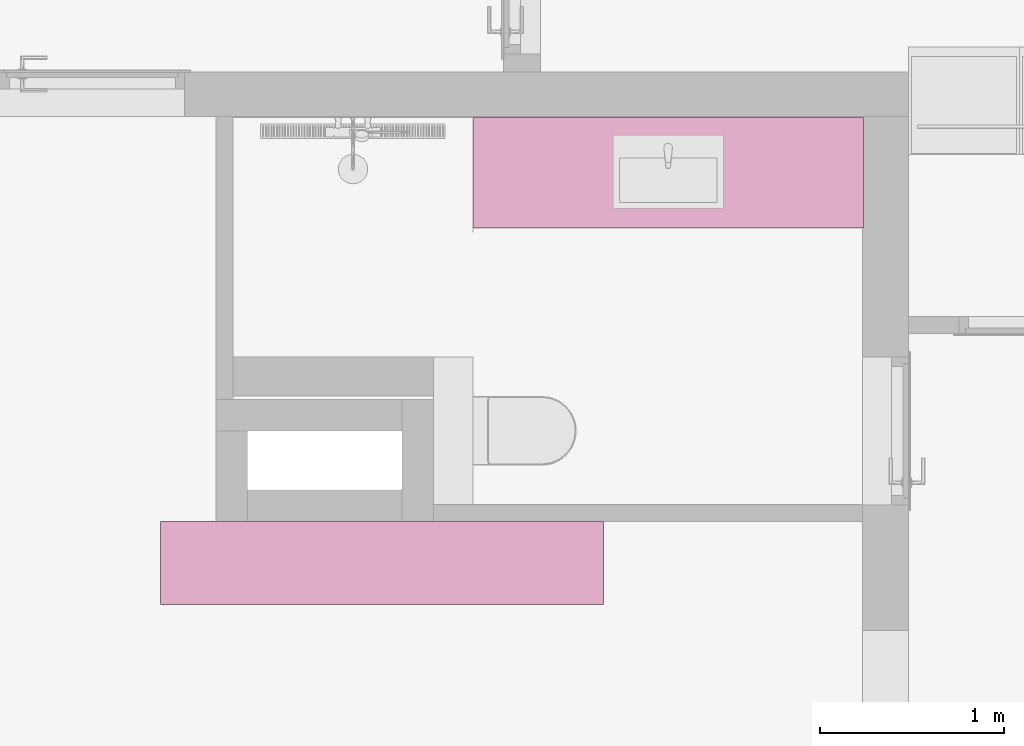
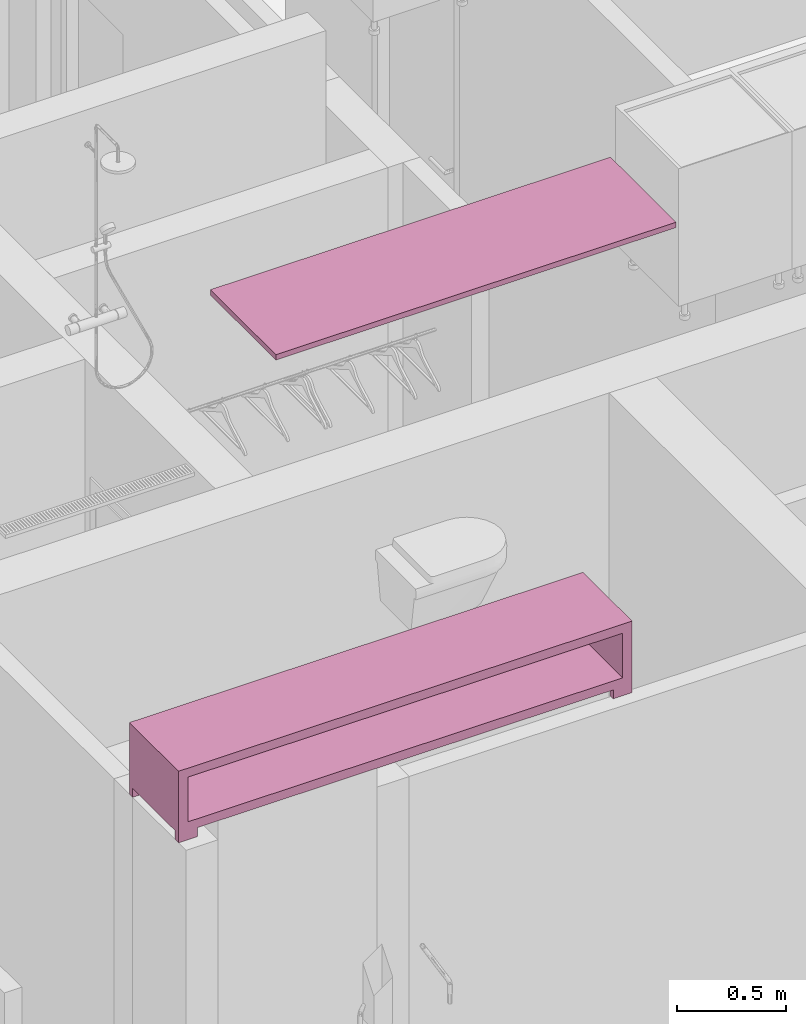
# One storey, part 25 of 68: 2 furnishings.
"""IFC2X3 building model written with IfcOpenShell, lengths in millimetres."""

from ifc_helpers import new_model, entity, si_unit, converted_unit, direction, frame, frame_2d, origin, origin_2d_with_axis, place, context, subcontext, project, spatial, polyline, rectangle, outline, extrude, source, transform, mapped, material, type_object, type_shapes, element, save


model = new_model("IFC2X3")

# Units and contexts
model_context = context("Model", 3, precision=0.01, world=origin(), true_north=direction((6.123233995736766e-17, 1.0)))
plan_context = context("Plan", 3, precision=0.01, world=origin(), true_north=direction((6.123233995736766e-17, 1.0)))
body_context = subcontext(model_context, "Body", "Model", "MODEL_VIEW")
ifc_project = project(units=[si_unit("LENGTHUNIT", "METRE", prefix="MILLI"), converted_unit("PLANEANGLEUNIT", "DEGREE", entity("IfcPlaneAngleMeasure", 0.017453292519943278), si_unit("PLANEANGLEUNIT", "RADIAN"), dimensions=[0, 0, 0, 0, 0, 0, 0]), si_unit("AREAUNIT", "SQUARE_METRE")], contexts=[model_context, plan_context])

# Site, building, storey, space
site_placement = place(None, origin())
site = spatial("IfcSite", under=ifc_project, at=site_placement, Name="Default", CompositionType="ELEMENT")
building_placement = place(site_placement, origin())
building = spatial("IfcBuilding", under=site, at=building_placement, CompositionType="ELEMENT")
storey_placement = place(building_placement, frame((0.0, 0.0, 6295.0)))
storey = spatial("IfcBuildingStorey", under=building, at=storey_placement, Name="3K", CompositionType="ELEMENT", Elevation=6294.999999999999)
space_1_placement = place(storey_placement, origin())
space_1 = spatial("IfcSpace", under=storey, at=space_1_placement, Name="3-8.2", CompositionType="ELEMENT", InteriorOrExteriorSpace="INTERNAL")

# Furnishing
ifc_material = material(Name="<Unnamed>")
furniture_type_1 = type_object("IfcFurnitureType", Name="HR_Furniture_TV-stand_Generic_v2016-05-13:Default", AssemblyPlace="NOTDEFINED", material=ifc_material)
shared_shape_1 = source(origin(), body_context, "Body", "SweptSolid", [
    extrude(rectangle(XDim=99.99999999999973, YDim=29.999999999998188, at=origin_2d_with_axis()), frame((1150.0, 15.0, 0.0), z_axis=(0.0, 0.0, 1.0), x_axis=(-1.0, 0.0, 0.0)), (0.0, 0.0, 1.0), 49.99999999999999),
    extrude(rectangle(XDim=30.000000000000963, YDim=99.99999999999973, at=frame_2d((-3.375077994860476e-14, 0.0), x_axis=(1.0, 0.0))), frame((1150.0, 435.0, 0.0), z_axis=(0.0, 0.0, 1.0), x_axis=(0.0, 1.0, 0.0)), (0.0, 0.0, 1.0), 49.99999999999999),
    extrude(rectangle(XDim=30.000000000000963, YDim=99.99999999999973, at=frame_2d((-3.375077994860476e-14, 0.0), x_axis=(1.0, 0.0))), frame((-1150.0, 435.0, 0.0), z_axis=(0.0, 0.0, 1.0), x_axis=(0.0, 1.0, 0.0)), (0.0, 0.0, 1.0), 49.99999999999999),
    extrude(rectangle(XDim=99.99999999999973, YDim=29.999999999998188, at=origin_2d_with_axis()), frame((-1150.0, 15.0, 0.0), z_axis=(0.0, 0.0, 1.0), x_axis=(-1.0, 0.0, 0.0)), (0.0, 0.0, 1.0), 49.99999999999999),
    extrude(outline(polyline([(-175.0, -1200.0), (175.0, -1200.0), (175.0, 1200.0), (-175.0, 1200.0), (-175.0, -1200.0)]), holes=[polyline([(-125.0, -1150.0), (-125.0, 1150.0), (125.0, 1150.0), (125.0, -1150.0), (-125.0, -1150.0)])]), frame((0.0, 0.0, 225.0), z_axis=(0.0, 1.0, 0.0), x_axis=(0.0, 0.0, -1.0)), (0.0, 0.0, 1.0), 449.9999999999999),
])
type_shapes(furniture_type_1, [shared_shape_1])
furnishing_1_placement = place(space_1_placement, frame((9290.0, 4210.0, 3170.000076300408), z_axis=(0.0, 0.0, 1.0), x_axis=(-1.0, 0.0, 0.0)))
element("IfcFurnishingElement", 1, at=furnishing_1_placement, inside=space_1, type_object=furniture_type_1, material=ifc_material, Name="HR_Furniture_TV-stand_Generic_v2016-05-13:Default", ObjectType="HR_Furniture_TV-stand_Generic_v2016-05-13:Default", context=body_context, shape_type="MappedRepresentation", body=[
    mapped(shared_shape_1, transform((0.0, 0.0, 0.0), scale=1.0)),
])

# Space
space_2_placement = place(storey_placement, origin())
space_2 = spatial("IfcSpace", under=storey, at=space_2_placement, Name="3-8.6", CompositionType="ELEMENT", InteriorOrExteriorSpace="INTERNAL")

# Furnishing
furniture_type_2 = type_object("IfcFurnitureType", Name="HR_Casework_Work-surface_Generic_Rectangular_v1:Default", AssemblyPlace="NOTDEFINED", material=ifc_material)
shared_shape_2 = source(origin(), body_context, "Body", "SweptSolid", [
    extrude(rectangle(XDim=2116.9935349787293, YDim=600.0, at=frame_2d((9.094947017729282e-13, 0.0), x_axis=(1.0, 0.0))), frame((0.0, 300.0, -2255.0)), (0.0, 0.0, 1.0), 29.999999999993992),
])
type_shapes(furniture_type_2, [shared_shape_2])
furnishing_2_placement = place(space_2_placement, frame((10841.496767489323, 5799.999959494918, 6295.000076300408)))
element("IfcFurnishingElement", 2, at=furnishing_2_placement, inside=space_2, type_object=furniture_type_2, material=ifc_material, Name="HR_Casework_Work-surface_Generic_Rectangular_v1:Default", ObjectType="HR_Casework_Work-surface_Generic_Rectangular_v1:Default", context=body_context, shape_type="MappedRepresentation", body=[
    mapped(shared_shape_2, transform((0.0, 0.0, 0.0), scale=1.0)),
])

save(model, "model.ifc")
